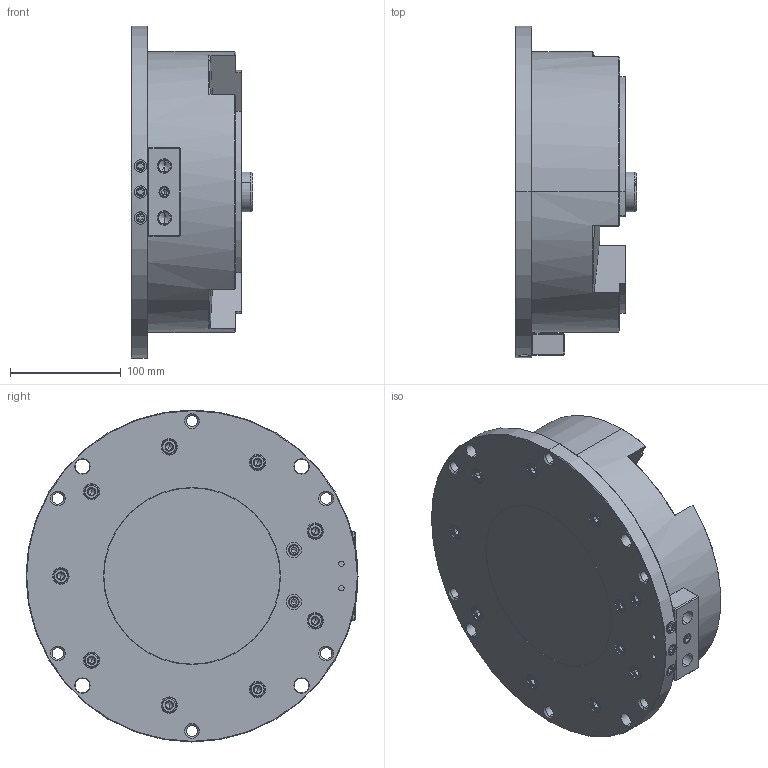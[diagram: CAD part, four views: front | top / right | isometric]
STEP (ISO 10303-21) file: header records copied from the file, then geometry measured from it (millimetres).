
FILE_DESCRIPTION (( 'STEP AP214' ), '1' );
FILE_NAME ('DT3_61R238914.STEP', '2026-01-23T00:21:40', ( '' ), ( '' ), 'SwSTEP 2.0', 'SolidWorks 2022', '' );
FILE_SCHEMA (( 'AUTOMOTIVE_DESIGN' ));
Length unit declared in the file: millimetre
Products named in the file (3): Part2^DT3_61R238914; Part1^DT3_61R238914; DT3_61R238914
Assembly tree (2 placements, depth 2):
  DT3_61R238914
    Part1^DT3_61R238914
    Part2^DT3_61R238914
Bounding box: 110 x 300 x 300 mm (x, y, z)
Volume: 3924445.4 mm3; surface area: 491127 mm2
Topology: 10 solids, 23 shells, 1253 faces, 3062 edges, 1933 vertices
Faces by surface type: plane 559, cone 288, cylinder 246, bspline 158, torus 2
Entity records: 43411 total; most frequent: CARTESIAN_POINT 14400, ORIENTED_EDGE 6036, DIRECTION 5507, EDGE_CURVE 3018, VERTEX_POINT 1933, AXIS2_PLACEMENT_3D 1922, VECTOR 1663, LINE 1663
